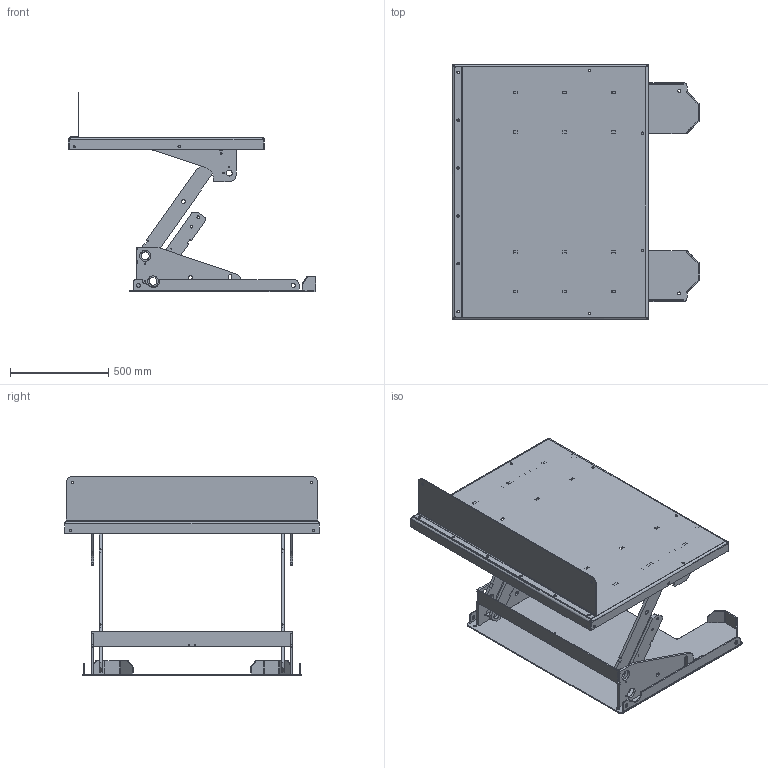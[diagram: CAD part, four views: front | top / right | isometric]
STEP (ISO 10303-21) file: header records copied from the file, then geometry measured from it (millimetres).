
FILE_DESCRIPTION(/* description */ ('ART 1500 (1000x1300)'),/* implementation_level */ '2;1');
FILE_NAME(/* name */ 'C:\Autodesk_VaultWork\Ritningar\STP\22023_Raised.stp',/* time_stamp */ '2019-06-26T08:08:26+02:00',/* author */ ('johso'),/* organization */ (''),/* preprocessor_version */ 'ST-DEVELOPER v16.5',/* originating_system */ 'Autodesk Inventor 2017',/* authorisation */ '');
FILE_SCHEMA (('AUTOMOTIVE_DESIGN { 1 0 10303 214 3 1 1 }'));
Length unit declared in the file: millimetre
Products named in the file (15): 22023.tmp; 35062; 609164; 609162; 609163; 34547; 34509; 35061; 34561; 35060; 34559; 35064; 35391; 34557; 34546
Assembly tree (20 placements, depth 3):
  22023.tmp
    35062
      609164
      609162
      609163  x2
      34547  x2
      34509  x2
    35061
      34561  x2
    35060
      34559  x2
    35064
      35391
      34557  x2
    34546
Bounding box: 1262.56 x 1300 x 1015 mm (x, y, z)
Volume: 22862405.9 mm3; surface area: 7102890.8 mm2
Topology: 16 solids, 16 shells, 1374 faces, 3958 edges, 2620 vertices
Faces by surface type: cylinder 872, plane 494, bspline 8
Full cylindrical faces by diameter (mm): 5.7 x2, 6.9 x4, 7.4 x16, 8.5 x2, 11 x4, 12 x12, 12.5 x12, 15 x4, 20 x6, 30.2 x4
Entity records: 34213 total; most frequent: DIRECTION 6156, CARTESIAN_POINT 6117, ORIENTED_EDGE 5680, EDGE_CURVE 2840, AXIS2_PLACEMENT_3D 2299, VERTEX_POINT 1908, LINE 1558, VECTOR 1558
